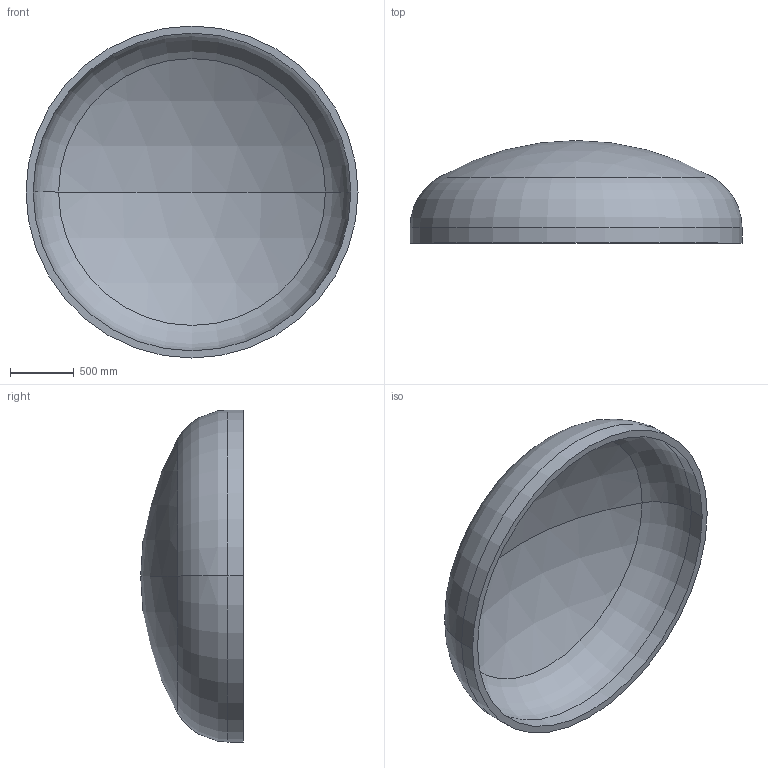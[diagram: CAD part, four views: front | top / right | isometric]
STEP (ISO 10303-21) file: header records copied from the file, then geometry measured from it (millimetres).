
FILE_DESCRIPTION (( 'STEP AP203' ), '1' );
FILE_NAME ('DIN 28013 Korbbogenform_-_Boden DIN 28013 - 2600 x 120 - I - s=56.step', '2016-07-01T16:17:48', ( '' ), ( '' ), 'SwSTEP 2.0', 'SolidWorks 2013', '' );
FILE_SCHEMA (( 'CONFIG_CONTROL_DESIGN' ));
Length unit declared in the file: millimetre
Products named in the file (1): DIN 28013 Korbbogenform_-_Boden DIN 28013 - 2600 x 120 - I - s=56
Bounding box: 2600 x 803.39 x 2600 mm (x, y, z)
Volume: 453912607.1 mm3; surface area: 16665291.1 mm2
Topology: 1 solids, 1 shells, 13 faces, 24 edges, 14 vertices
Faces by surface type: torus 4, cylinder 4, sphere 4, plane 1
Entity records: 407 total; most frequent: DIRECTION 72, CARTESIAN_POINT 52, ORIENTED_EDGE 48, AXIS2_PLACEMENT_3D 34, EDGE_CURVE 24, CIRCLE 20, EDGE_LOOP 14, VERTEX_POINT 14
